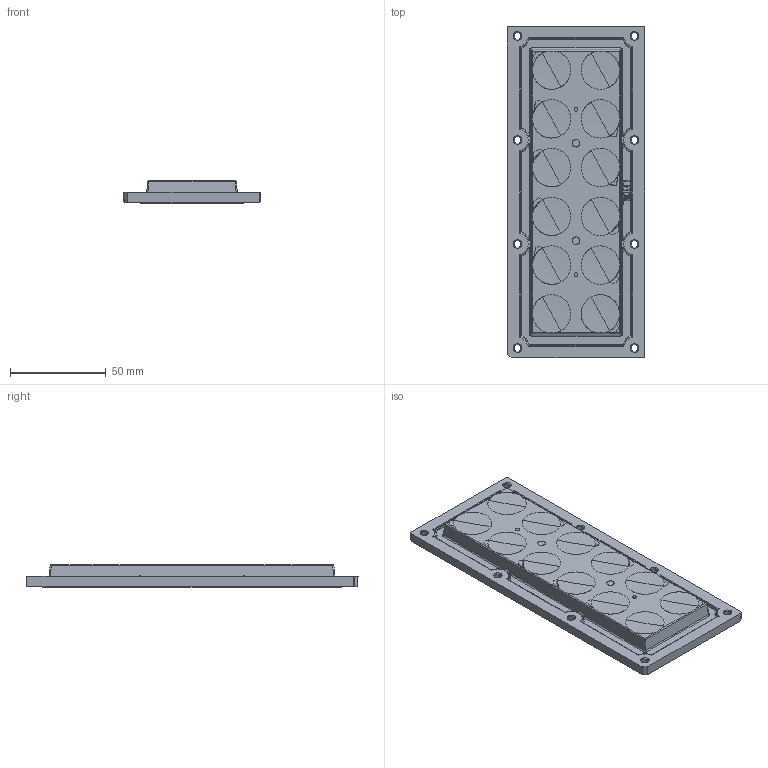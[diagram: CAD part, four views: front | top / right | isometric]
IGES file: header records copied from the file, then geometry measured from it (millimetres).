
Start section: START RECORD GO HERE.
Global section: file name: CS14891_HB-IP-2X6-M_with_reference_PCB_mechanicalmodel_20190416.igs; native system: DASSAULT SYSTEMES CATIA Version 5-6 Release 2018 - www.3ds.com; preprocessor: V5-6R2018_5.28.4.0.02-27-2019.20.00; author: matti.vuola; organization: LEDIL; date: 20190513.152532; units: millimetre
Bounding box: 71.4 x 173 x 11.8 mm (x, y, z)
Surface area: 59413.9 mm2 (no closed solid volume)
Topology: 0 solids, 0 shells, 2056 faces, 10952 edges, 10651 vertices
Faces by surface type: revolution 964, bspline 795, plane 297
